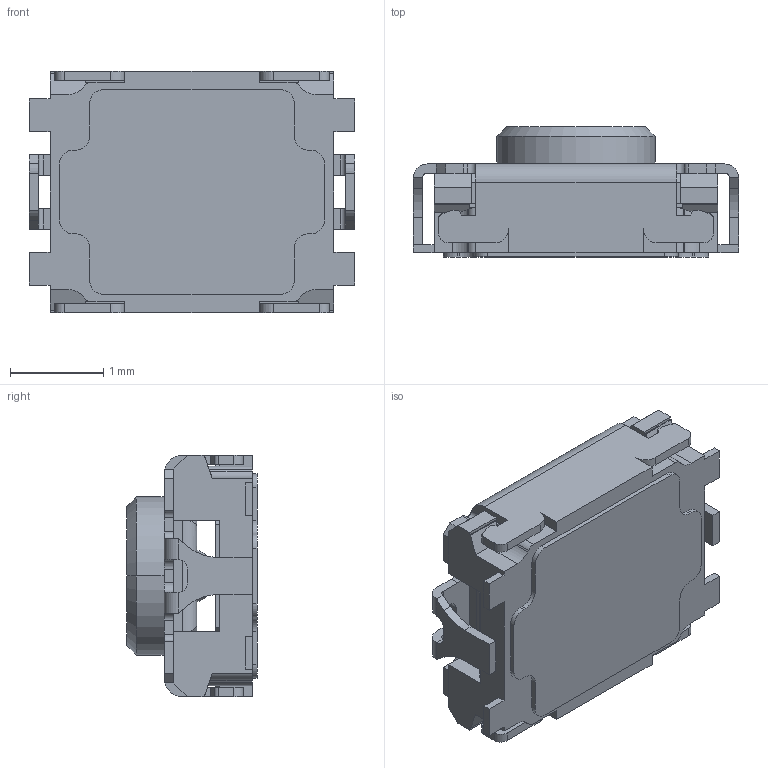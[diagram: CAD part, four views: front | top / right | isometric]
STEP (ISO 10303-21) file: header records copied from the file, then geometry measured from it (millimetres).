
FILE_DESCRIPTION((''),'2;1');
FILE_NAME('CU97M01830FP_SW','2017-05-11T',('milene.vallet'),(''),'CREO PARAMETRIC BY PTC INC, 2016380','CREO PARAMETRIC BY PTC INC, 2016380','');
FILE_SCHEMA(('CONFIG_CONTROL_DESIGN'));
Length unit declared in the file: millimetre
Products named in the file (1): CU97M01830FP_SW
Bounding box: 3.5 x 1.4 x 2.6 mm (x, y, z)
Volume: 6.8 mm3; surface area: 50.9 mm2
Topology: 1 solids, 1 shells, 314 faces, 917 edges, 586 vertices
Faces by surface type: plane 220, cylinder 90, sphere 2, cone 2
Entity records: 10425 total; most frequent: CARTESIAN_POINT 1978, ORIENTED_EDGE 1830, DIRECTION 1685, EDGE_CURVE 915, VECTOR 723, LINE 723, VERTEX_POINT 586, AXIS2_PLACEMENT_3D 481
